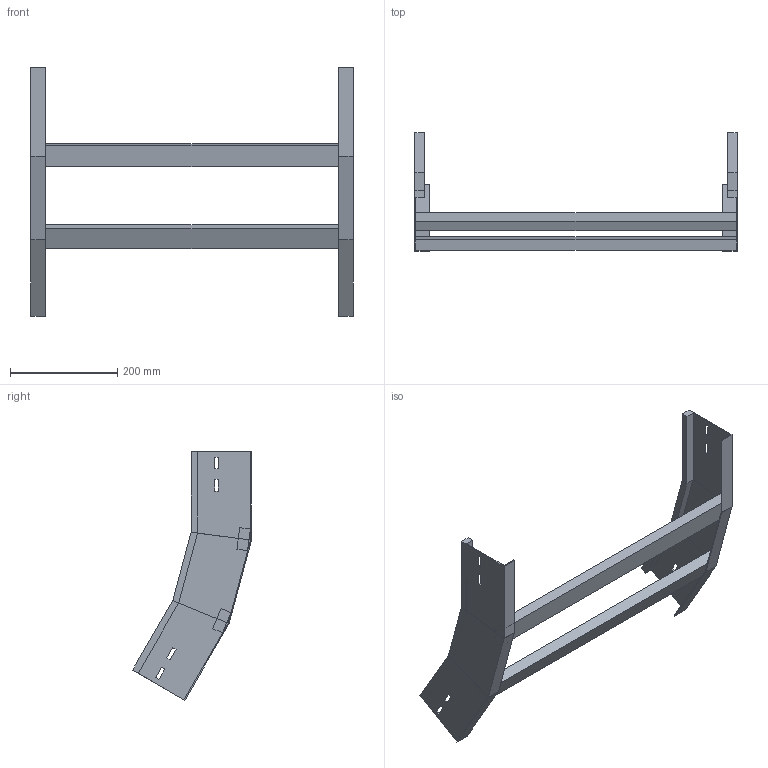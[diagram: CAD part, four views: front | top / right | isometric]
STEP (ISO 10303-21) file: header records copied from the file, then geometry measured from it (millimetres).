
FILE_DESCRIPTION (( 'STEP AP214' ), '1' );
FILE_NAME ('B2X32B5J600XX.step', '2025-03-20T10:01:05', ( '' ), ( '' ), 'SwSTEP 2.0', 'SolidWorks 2023', '' );
FILE_SCHEMA (( 'AUTOMOTIVE_DESIGN' ));
Length unit declared in the file: millimetre
Products named in the file (3): TRAVERSINO_600; B2X32B5J600XX; LONGH.SALITA_30°_H112.5_R500
Assembly tree (4 placements, depth 2):
  B2X32B5J600XX
    LONGH.SALITA_30°_H112.5_R500  x2
    TRAVERSINO_600  x2
Bounding box: 600 x 221.37 x 462.57 mm (x, y, z)
Volume: 1385890.7 mm3; surface area: 435437.4 mm2
Topology: 4 solids, 4 shells, 96 faces, 232 edges, 144 vertices
Faces by surface type: plane 96
Entity records: 1472 total; most frequent: CARTESIAN_POINT 243, ORIENTED_EDGE 232, DIRECTION 226, EDGE_CURVE 116, VECTOR 116, LINE 116, VERTEX_POINT 72, EDGE_LOOP 56
